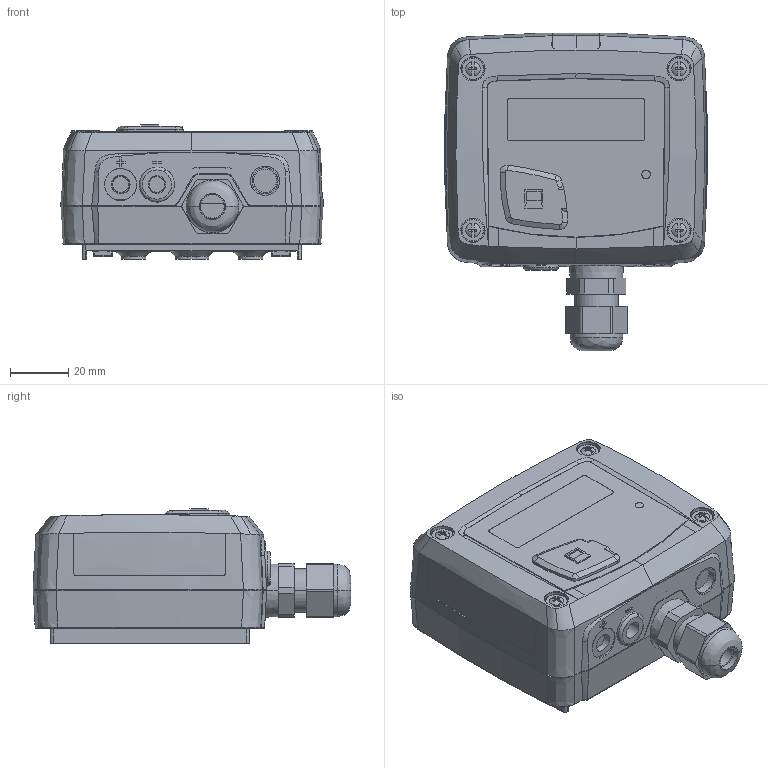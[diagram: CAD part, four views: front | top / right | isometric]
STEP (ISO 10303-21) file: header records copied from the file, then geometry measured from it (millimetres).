
FILE_DESCRIPTION((''),'2;1');
FILE_NAME('TM110_B','2016-06-24T',('REFT'),(''),'PRO/ENGINEER BY PARAMETRIC TECHNOLOGY CORPORATION, 2012420','PRO/ENGINEER BY PARAMETRIC TECHNOLOGY CORPORATION, 2012420','');
FILE_SCHEMA(('CONFIG_CONTROL_DESIGN'));
Products named in the file (1): TM110_B
Bounding box: 89.77 x 108.64 x 46.1 mm (x, y, z)
Volume: 272356 mm3; surface area: 48905.2 mm2
Topology: 1 solids, 2 shells, 1714 faces, 4513 edges, 2926 vertices
Faces by surface type: plane 894, extrusion 340, cylinder 248, bspline 102, cone 87, sphere 24, torus 17, revolution 2
Entity records: 60588 total; most frequent: CARTESIAN_POINT 20028, ORIENTED_EDGE 9022, DIRECTION 6996, EDGE_CURVE 4511, VECTOR 3174, VERTEX_POINT 2926, LINE 2834, AXIS2_PLACEMENT_3D 1910
